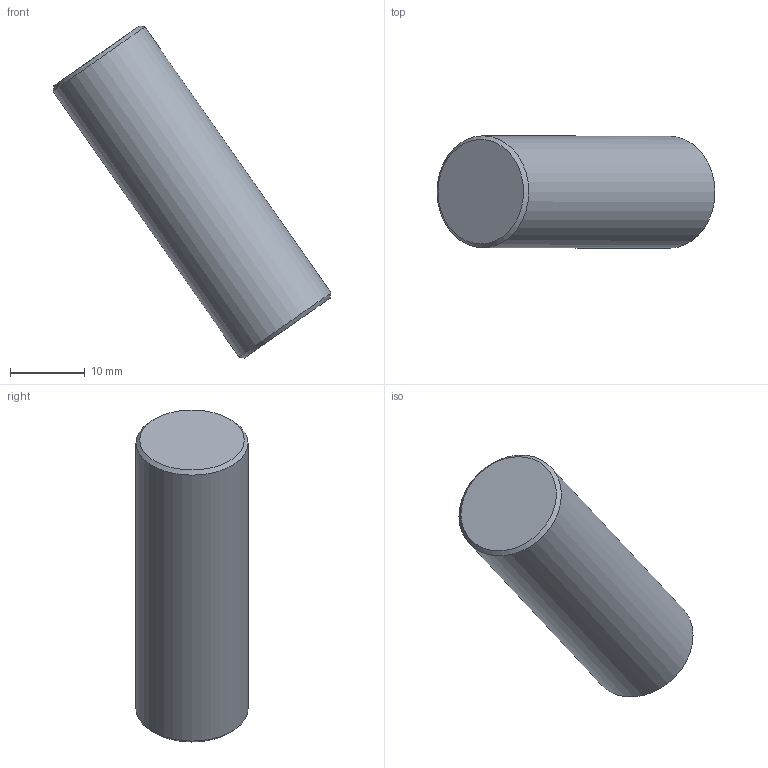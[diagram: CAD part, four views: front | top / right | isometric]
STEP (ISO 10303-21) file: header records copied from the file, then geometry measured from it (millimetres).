
FILE_DESCRIPTION(/* description */ ('STEP AP242','CAx-IF Rec.Pracs.---Representation and Presentation of Product Manufacturing Information (PMI)---4.0---2014-10-13','CAx-IF Rec.Pracs.---3D Tessellated Geometry---0.4---2014-09-14','2;1'),/* implementation_level */ '2;1');
FILE_NAME(/* name */ '64c802c376273f070d60f4dd',/* time_stamp */ '2023-07-31T18:51:48Z',/* author */ (''),/* organization */ (''),/* preprocessor_version */ 'ST-DEVELOPER v19.4',/* originating_system */ ' ',/* authorisation */ ' ');
FILE_SCHEMA (('AP242_MANAGED_MODEL_BASED_3D_ENGINEERING_MIM_LF { 1 0 10303 442 1 1 4 }'));
Length unit declared in the file: metre
Products named in the file (1): Kolben
Bounding box: 37.23 x 15 x 44.46 mm (x, y, z)
Volume: 4450.6 mm3; surface area: 3541.4 mm2
Topology: 1 solids, 1 shells, 8 faces, 13 edges, 8 vertices
Faces by surface type: plane 3, cone 3, cylinder 2
Full cylindrical faces by diameter (mm): 12 x1, 15 x1
Entity records: 176 total; most frequent: DIRECTION 32, CARTESIAN_POINT 23, AXIS2_PLACEMENT_3D 16, ORIENTED_EDGE 14, EDGE_LOOP 14, FACE_BOUND 14, ADVANCED_FACE 8, EDGE_CURVE 7
